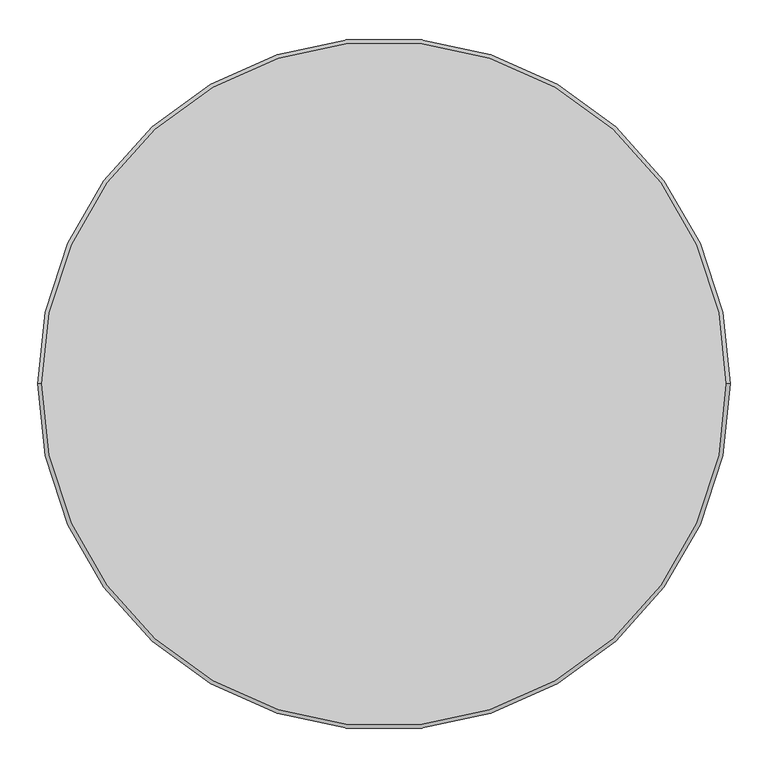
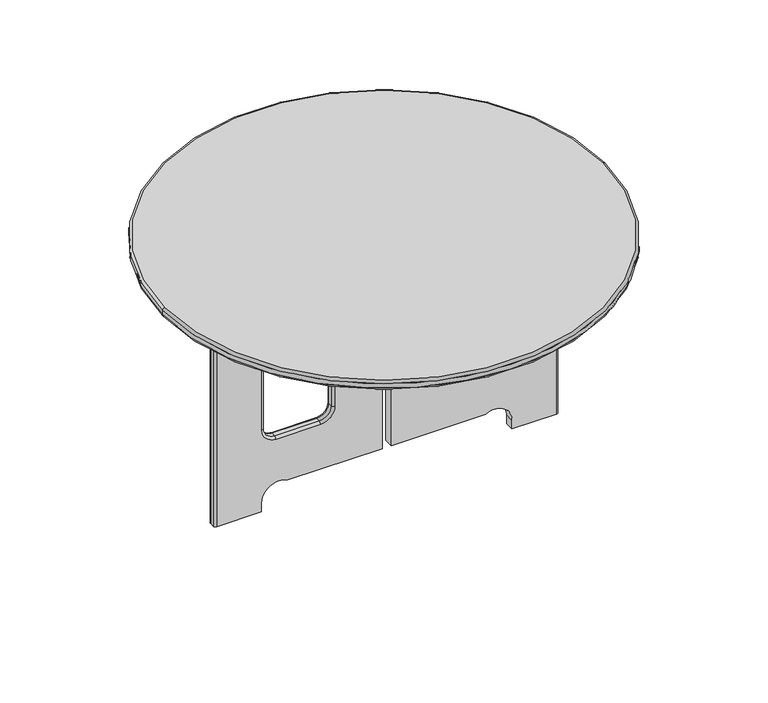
"""IFC4 building model written with IfcOpenShell, lengths in millimetres: furniture geometry, SSL-Childcraft_Outdoor-Table-Round : 2161358."""

from ifc_helpers import new_model, si_unit, point, frame, origin, origin_with_axes, place, context, project, spatial, polyline, circle_curve, ellipse_curve, trimmed, source, transform, mapped, element, save
from ifc_brep_helpers import plane_surface, cylinder_surface, revolved_surface, advanced_brep


def furniture_70d26ff8(model_context):
    return source(origin(), model_context, "Body", "AdvancedBrep", [
        advanced_brep(
        [(-350.8375, 9.525, 488.95), (-355.6, 4.7625, 488.95), (-355.6, -4.7625, 488.95), (-350.8375, -9.525, 488.95), (-285.7500064, -9.525, 488.95), (-285.7500064, 9.525, 488.95), (350.8375, -9.525, 488.95), (355.6, -4.7625, 488.95), (355.6, 4.7625, 488.95), (350.8375, 9.525, 488.95), (285.7499947, 9.525, 488.95), (285.7499947, -9.525, 488.95), (-350.8375, -9.525, 0.0), (-355.6, -4.7625, 0.0), (-355.6, 4.7625, 0.0), (-350.8375, 9.525, 0.0), (-258.7625, 9.525, 0.0), (-258.7625, -9.525, 0.0), (350.8375, 9.525, 0.0), (355.6, 4.7625, 0.0), (355.6, -4.7625, 0.0), (350.8375, -9.525, 0.0), (258.7625, -9.525, 0.0), (258.7625, 9.525, 0.0), (-266.6999968, 9.525, 469.899954), (266.7, 9.525, 469.899954), (258.7625, 9.525, 19.0499717), (204.219466, 9.525, 50.7999717), (9.525, 9.525, 50.7999717), (9.525, 9.525, 301.6249575), (-9.525, 9.525, 301.6249575), (-9.525, 9.525, 50.7999717), (-204.219466, 9.525, 50.7999717), (-258.7625, 9.525, 19.0499717), (-107.1562606, 9.525, 361.9499433), (-136.5250106, 9.525, 391.3186933), (-228.5873106, 9.525, 391.3186933), (-257.9687606, 9.525, 361.9372433), (-257.9687606, 9.525, 177.7999717), (-228.6000106, 9.525, 148.4312217), (-136.5250106, 9.525, 148.4312217), (-107.1562606, 9.525, 177.7999717), (257.9687606, 9.525, 361.9372433), (228.5873106, 9.525, 391.3186933), (136.5250106, 9.525, 391.3186933), (107.1562606, 9.525, 361.9499433), (107.1562606, 9.525, 177.7999717), (136.5250106, 9.525, 148.4312217), (228.6000106, 9.525, 148.4312217), (257.9687606, 9.525, 177.7999717), (-258.7625, -9.525, 19.0499717), (-204.219466, -9.525, 50.7999717), (-9.525, -9.525, 50.7999717), (-9.525, -9.525, 301.6249575), (9.525, -9.525, 301.6249575), (9.525, -9.525, 50.7999717), (204.219466, -9.525, 50.7999717), (258.7625, -9.525, 19.0499717), (266.7, -9.525, 469.899954), (-266.6999968, -9.525, 469.899954), (-136.5250106, -9.525, 391.3186933), (-107.1562606, -9.525, 361.9499433), (-107.1562606, -9.525, 177.7999717), (-136.5250106, -9.525, 148.4312217), (-228.6000106, -9.525, 148.4312217), (-257.9687606, -9.525, 177.7999717), (-257.9687606, -9.525, 361.9372433), (-228.5873106, -9.525, 391.3186933), (228.5873106, -9.525, 391.3186933), (257.9687606, -9.525, 361.9372433), (257.9687606, -9.525, 177.7999717), (228.6000106, -9.525, 148.4312217), (136.5250106, -9.525, 148.4312217), (107.1562606, -9.525, 177.7999717), (107.1562606, -9.525, 361.9499433), (136.5250106, -9.525, 391.3186933), (-111.9187606, 4.7625, 361.9499433), (-136.5250106, 4.7625, 386.5561933), (-111.9187606, -4.7625, 361.9499433), (-136.5250106, -4.7625, 386.5561933), (-111.9187606, 4.7625, 177.7999717), (-111.9187606, -4.7625, 177.7999717), (-136.5250106, 4.7625, 153.1937217), (-136.5250106, -4.7625, 153.1937217), (-228.6000106, 4.7625, 153.1937217), (-228.6000106, -4.7625, 153.1937217), (-253.2062606, 4.7625, 177.7999717), (-253.2062606, -4.7625, 177.7999717), (-253.2062606, 4.7625, 361.9372433), (-253.2062606, -4.7625, 361.9372433), (-228.5873106, 4.7625, 386.5561933), (-228.5873106, -4.7625, 386.5561933), (253.2062606, 4.7625, 361.9372433), (228.5873106, 4.7625, 386.5561933), (253.2062606, -4.7625, 361.9372433), (228.5873106, -4.7625, 386.5561933), (253.2062606, 4.7625, 177.7999717), (253.2062606, -4.7625, 177.7999717), (228.6000106, 4.7625, 153.1937217), (228.6000106, -4.7625, 153.1937217), (136.5250106, 4.7625, 153.1937217), (136.5250106, -4.7625, 153.1937217), (111.9187606, 4.7625, 177.7999717), (111.9187606, -4.7625, 177.7999717), (111.9187606, 4.7625, 361.9499433), (111.9187606, -4.7625, 361.9499433), (136.5250106, 4.7625, 386.5561933), (136.5250106, -4.7625, 386.5561933)],
        [
            (0, 1, circle_curve(frame((-350.8375, 4.7625, 488.95), z_axis=(0.0, 0.0, 1.0), x_axis=(1.0, 0.0, 0.0)), 4.7625)),
            (1, 2),
            (2, 3, circle_curve(frame((-350.8375, -4.7625, 488.95), z_axis=(0.0, 0.0, 1.0), x_axis=(1.0, 0.0, 0.0)), 4.7625)),
            (3, 4),
            (4, 5),
            (5, 0),
            (6, 7, circle_curve(frame((350.8375, -4.7625, 488.95), z_axis=(0.0, 0.0, 1.0), x_axis=(1.0, 0.0, 0.0)), 4.7625)),
            (7, 8),
            (8, 9, circle_curve(frame((350.8375, 4.7625, 488.95), z_axis=(0.0, 0.0, 1.0), x_axis=(1.0, 0.0, 0.0)), 4.7625)),
            (9, 10),
            (10, 11),
            (11, 6),
            (12, 13, circle_curve(frame((-350.8375, -4.7625, 0.0), z_axis=(0.0, 0.0, -1.0), x_axis=(1.0, 0.0, 0.0)), 4.7625)),
            (13, 14),
            (14, 15, circle_curve(frame((-350.8375, 4.7625, 0.0), z_axis=(0.0, 0.0, -1.0), x_axis=(1.0, 0.0, 0.0)), 4.7625)),
            (15, 16),
            (16, 17),
            (17, 12),
            (18, 19, circle_curve(frame((350.8375, 4.7625, 0.0), z_axis=(0.0, 0.0, -1.0), x_axis=(1.0, 0.0, 0.0)), 4.7625)),
            (19, 20),
            (20, 21, circle_curve(frame((350.8375, -4.7625, 0.0), z_axis=(0.0, 0.0, -1.0), x_axis=(1.0, 0.0, 0.0)), 4.7625)),
            (21, 22),
            (22, 23),
            (23, 18),
            (15, 0),
            (5, 24, circle_curve(frame((-266.6999968, 9.525, 488.9499636), z_axis=(0.0, -1.0, 0.0), x_axis=(1.0, 0.0, 0.0)), 19.0500096)),
            (24, 25),
            (25, 10, circle_curve(frame((266.7, 9.525, 488.9499487), z_axis=(0.0, -1.0, 0.0), x_axis=(1.0, 0.0, 0.0)), 19.0499947)),
            (9, 18),
            (23, 26),
            (26, 27, circle_curve(frame((222.25, 9.525, 19.0499717), z_axis=(0.0, -1.0, 0.0), x_axis=(1.0, 0.0, 0.0)), 36.5125)),
            (27, 28),
            (28, 29),
            (29, 30),
            (30, 31),
            (31, 32),
            (32, 33, circle_curve(frame((-222.25, 9.525, 19.0499717), z_axis=(0.0, -1.0, 0.0), x_axis=(1.0, 0.0, 0.0)), 36.5125)),
            (33, 16),
            (34, 35, circle_curve(frame((-136.5250106, 9.525, 361.9499433), z_axis=(0.0, -1.0, 0.0), x_axis=(0.0, 0.0, 1.0)), 29.36875)),
            (35, 36),
            (36, 37, circle_curve(frame((-228.5873106, 9.525, 361.9372433), z_axis=(0.0, -1.0, 0.0), x_axis=(-1.0, 0.0, 0.0)), 29.38145)),
            (37, 38),
            (38, 39, circle_curve(frame((-228.6000106, 9.525, 177.7999717), z_axis=(0.0, -1.0, 0.0), x_axis=(0.0, 0.0, -1.0)), 29.36875)),
            (39, 40),
            (40, 41, circle_curve(frame((-136.5250106, 9.525, 177.7999717), z_axis=(0.0, -1.0, 0.0), x_axis=(1.0, 0.0, 0.0)), 29.36875)),
            (41, 34),
            (42, 43, circle_curve(frame((228.5873106, 9.525, 361.9372433), z_axis=(0.0, -1.0, 0.0), x_axis=(0.0, 0.0, 1.0)), 29.38145)),
            (43, 44),
            (44, 45, circle_curve(frame((136.5250106, 9.525, 361.9499433), z_axis=(0.0, -1.0, 0.0), x_axis=(-1.0, 0.0, 0.0)), 29.36875)),
            (45, 46),
            (46, 47, circle_curve(frame((136.5250106, 9.525, 177.7999717), z_axis=(0.0, -1.0, 0.0), x_axis=(0.0, 0.0, -1.0)), 29.36875)),
            (47, 48),
            (48, 49, circle_curve(frame((228.6000106, 9.525, 177.7999717), z_axis=(0.0, -1.0, 0.0), x_axis=(1.0, 0.0, 0.0)), 29.36875)),
            (49, 42),
            (14, 1),
            (13, 2),
            (12, 3),
            (17, 50),
            (50, 51, circle_curve(frame((-222.25, -9.525, 19.0499717), z_axis=(0.0, 1.0, 0.0), x_axis=(1.0, 0.0, 0.0)), 36.5125)),
            (51, 52),
            (52, 53),
            (53, 54),
            (54, 55),
            (55, 56),
            (56, 57, circle_curve(frame((222.25, -9.525, 19.0499717), z_axis=(0.0, 1.0, 0.0), x_axis=(1.0, 0.0, 0.0)), 36.5125)),
            (57, 22),
            (21, 6),
            (11, 58, circle_curve(frame((266.7, -9.525, 488.9499487), z_axis=(0.0, 1.0, 0.0), x_axis=(1.0, 0.0, 0.0)), 19.0499947)),
            (58, 59),
            (59, 4, circle_curve(frame((-266.6999968, -9.525, 488.9499636), z_axis=(0.0, 1.0, 0.0), x_axis=(1.0, 0.0, 0.0)), 19.0500096)),
            (60, 61, circle_curve(frame((-136.5250106, -9.525, 361.9499433), z_axis=(0.0, 1.0, 0.0), x_axis=(0.0, 0.0, 1.0)), 29.36875)),
            (61, 62),
            (62, 63, circle_curve(frame((-136.5250106, -9.525, 177.7999717), z_axis=(0.0, 1.0, 0.0), x_axis=(1.0, 0.0, 0.0)), 29.36875)),
            (63, 64),
            (64, 65, circle_curve(frame((-228.6000106, -9.525, 177.7999717), z_axis=(0.0, 1.0, 0.0), x_axis=(0.0, 0.0, -1.0)), 29.36875)),
            (65, 66),
            (66, 67, circle_curve(frame((-228.5873106, -9.525, 361.9372433), z_axis=(0.0, 1.0, 0.0), x_axis=(-1.0, 0.0, 0.0)), 29.38145)),
            (67, 60),
            (68, 69, circle_curve(frame((228.5873106, -9.525, 361.9372433), z_axis=(0.0, 1.0, 0.0), x_axis=(0.0, 0.0, 1.0)), 29.38145)),
            (69, 70),
            (70, 71, circle_curve(frame((228.6000106, -9.525, 177.7999717), z_axis=(0.0, 1.0, 0.0), x_axis=(1.0, 0.0, 0.0)), 29.36875)),
            (71, 72),
            (72, 73, circle_curve(frame((136.5250106, -9.525, 177.7999717), z_axis=(0.0, 1.0, 0.0), x_axis=(0.0, 0.0, -1.0)), 29.36875)),
            (73, 74),
            (74, 75, circle_curve(frame((136.5250106, -9.525, 361.9499433), z_axis=(0.0, 1.0, 0.0), x_axis=(-1.0, 0.0, 0.0)), 29.36875)),
            (75, 68),
            (20, 7),
            (19, 8),
            (51, 32),
            (31, 52),
            (30, 53),
            (29, 54),
            (28, 55),
            (27, 56),
            (25, 58),
            (24, 59),
            (26, 57),
            (33, 50),
            (76, 77, circle_curve(frame((-136.5250106, 4.7625, 361.9499433), z_axis=(0.0, -1.0, 0.0), x_axis=(0.0, 0.0, 1.0)), 24.60625)),
            (77, 35, circle_curve(frame((-136.5250106, 4.7625, 391.3186933), z_axis=(1.0, 0.0, 0.0), x_axis=(0.0, 0.0, 1.0)), 4.7625)),
            (34, 76, circle_curve(frame((-107.1562606, 4.7625, 361.9499433), z_axis=(0.0, 0.0, 1.0), x_axis=(1.0, 0.0, 0.0)), 4.7625)),
            (76, 78),
            (78, 79, circle_curve(frame((-136.5250106, -4.7625, 361.9499433), z_axis=(0.0, -1.0, 0.0), x_axis=(0.0, 0.0, 1.0)), 24.60625)),
            (79, 77),
            (78, 61, circle_curve(frame((-107.1562606, -4.7625, 361.9499433), z_axis=(0.0, 0.0, 1.0), x_axis=(1.0, 0.0, 0.0)), 4.7625)),
            (60, 79, circle_curve(frame((-136.5250106, -4.7625, 391.3186933), z_axis=(1.0, 0.0, 0.0), x_axis=(0.0, 0.0, 1.0)), 4.7625)),
            (41, 80, circle_curve(frame((-107.1562606, 4.7625, 177.7999717), z_axis=(0.0, 0.0, 1.0), x_axis=(1.0, 0.0, 0.0)), 4.7625)),
            (80, 76),
            (80, 81),
            (81, 78),
            (81, 62, circle_curve(frame((-107.1562606, -4.7625, 177.7999717), z_axis=(0.0, 0.0, 1.0), x_axis=(1.0, 0.0, 0.0)), 4.7625)),
            (40, 82, circle_curve(frame((-136.5250106, 4.7625, 148.4312217), z_axis=(1.0, 0.0, 0.0), x_axis=(0.0, 0.0, -1.0)), 4.7625)),
            (82, 80, circle_curve(frame((-136.5250106, 4.7625, 177.7999717), z_axis=(0.0, -1.0, 0.0), x_axis=(1.0, 0.0, 0.0)), 24.60625)),
            (82, 83),
            (83, 81, circle_curve(frame((-136.5250106, -4.7625, 177.7999717), z_axis=(0.0, -1.0, 0.0), x_axis=(1.0, 0.0, 0.0)), 24.60625)),
            (83, 63, circle_curve(frame((-136.5250106, -4.7625, 148.4312217), z_axis=(1.0, 0.0, 0.0), x_axis=(0.0, 0.0, -1.0)), 4.7625)),
            (39, 84, circle_curve(frame((-228.6000106, 4.7625, 148.4312217), z_axis=(1.0, 0.0, 0.0), x_axis=(0.0, 0.0, -1.0)), 4.7625)),
            (84, 82),
            (84, 85),
            (85, 83),
            (85, 64, circle_curve(frame((-228.6000106, -4.7625, 148.4312217), z_axis=(1.0, 0.0, 0.0), x_axis=(0.0, 0.0, -1.0)), 4.7625)),
            (38, 86, circle_curve(frame((-257.9687606, 4.7625, 177.7999717), z_axis=(0.0, 0.0, -1.0), x_axis=(-1.0, 0.0, 0.0)), 4.7625)),
            (86, 84, circle_curve(frame((-228.6000106, 4.7625, 177.7999717), z_axis=(0.0, -1.0, 0.0), x_axis=(0.0, 0.0, -1.0)), 24.60625)),
            (86, 87),
            (87, 85, circle_curve(frame((-228.6000106, -4.7625, 177.7999717), z_axis=(0.0, -1.0, 0.0), x_axis=(0.0, 0.0, -1.0)), 24.60625)),
            (87, 65, circle_curve(frame((-257.9687606, -4.7625, 177.7999717), z_axis=(0.0, 0.0, -1.0), x_axis=(-1.0, 0.0, 0.0)), 4.7625)),
            (37, 88, circle_curve(frame((-257.9687606, 4.7625, 361.9372433), z_axis=(0.0, 0.0, -1.0), x_axis=(-1.0, 0.0, 0.0)), 4.7625)),
            (88, 86),
            (88, 89),
            (89, 87),
            (89, 66, circle_curve(frame((-257.9687606, -4.7625, 361.9372433), z_axis=(0.0, 0.0, -1.0), x_axis=(-1.0, 0.0, 0.0)), 4.7625)),
            (36, 90, circle_curve(frame((-228.5873106, 4.7625, 391.3186933), z_axis=(-1.0, 0.0, 0.0), x_axis=(0.0, 0.0, 1.0)), 4.7625)),
            (90, 88, circle_curve(frame((-228.5873106, 4.7625, 361.9372433), z_axis=(0.0, -1.0, 0.0), x_axis=(-1.0, 0.0, 0.0)), 24.61895)),
            (90, 91),
            (91, 89, circle_curve(frame((-228.5873106, -4.7625, 361.9372433), z_axis=(0.0, -1.0, 0.0), x_axis=(-1.0, 0.0, 0.0)), 24.61895)),
            (91, 67, circle_curve(frame((-228.5873106, -4.7625, 391.3186933), z_axis=(-1.0, 0.0, 0.0), x_axis=(0.0, 0.0, 1.0)), 4.7625)),
            (77, 90),
            (79, 91),
            (92, 93, circle_curve(frame((228.5873106, 4.7625, 361.9372433), z_axis=(0.0, -1.0, 0.0), x_axis=(0.0, 0.0, 1.0)), 24.61895)),
            (93, 43, circle_curve(frame((228.5873106, 4.7625, 391.3186933), z_axis=(1.0, 0.0, 0.0), x_axis=(0.0, 0.0, 1.0)), 4.7625)),
            (42, 92, circle_curve(frame((257.9687606, 4.7625, 361.9372433), z_axis=(0.0, 0.0, 1.0), x_axis=(1.0, 0.0, 0.0)), 4.7625)),
            (92, 94),
            (94, 95, circle_curve(frame((228.5873106, -4.7625, 361.9372433), z_axis=(0.0, -1.0, 0.0), x_axis=(0.0, 0.0, 1.0)), 24.61895)),
            (95, 93),
            (94, 69, circle_curve(frame((257.9687606, -4.7625, 361.9372433), z_axis=(0.0, 0.0, 1.0), x_axis=(1.0, 0.0, 0.0)), 4.7625)),
            (68, 95, circle_curve(frame((228.5873106, -4.7625, 391.3186933), z_axis=(1.0, 0.0, 0.0), x_axis=(0.0, 0.0, 1.0)), 4.7625)),
            (49, 96, circle_curve(frame((257.9687606, 4.7625, 177.7999717), z_axis=(0.0, 0.0, 1.0), x_axis=(1.0, 0.0, 0.0)), 4.7625)),
            (96, 92),
            (96, 97),
            (97, 94),
            (97, 70, circle_curve(frame((257.9687606, -4.7625, 177.7999717), z_axis=(0.0, 0.0, 1.0), x_axis=(1.0, 0.0, 0.0)), 4.7625)),
            (48, 98, circle_curve(frame((228.6000106, 4.7625, 148.4312217), z_axis=(1.0, 0.0, 0.0), x_axis=(0.0, 0.0, -1.0)), 4.7625)),
            (98, 96, circle_curve(frame((228.6000106, 4.7625, 177.7999717), z_axis=(0.0, -1.0, 0.0), x_axis=(1.0, 0.0, 0.0)), 24.60625)),
            (98, 99),
            (99, 97, circle_curve(frame((228.6000106, -4.7625, 177.7999717), z_axis=(0.0, -1.0, 0.0), x_axis=(1.0, 0.0, 0.0)), 24.60625)),
            (99, 71, circle_curve(frame((228.6000106, -4.7625, 148.4312217), z_axis=(1.0, 0.0, 0.0), x_axis=(0.0, 0.0, -1.0)), 4.7625)),
            (47, 100, circle_curve(frame((136.5250106, 4.7625, 148.4312217), z_axis=(1.0, 0.0, 0.0), x_axis=(0.0, 0.0, -1.0)), 4.7625)),
            (100, 98),
            (100, 101),
            (101, 99),
            (101, 72, circle_curve(frame((136.5250106, -4.7625, 148.4312217), z_axis=(1.0, 0.0, 0.0), x_axis=(0.0, 0.0, -1.0)), 4.7625)),
            (46, 102, circle_curve(frame((107.1562606, 4.7625, 177.7999717), z_axis=(0.0, 0.0, -1.0), x_axis=(-1.0, 0.0, 0.0)), 4.7625)),
            (102, 100, circle_curve(frame((136.5250106, 4.7625, 177.7999717), z_axis=(0.0, -1.0, 0.0), x_axis=(0.0, 0.0, -1.0)), 24.60625)),
            (102, 103),
            (103, 101, circle_curve(frame((136.5250106, -4.7625, 177.7999717), z_axis=(0.0, -1.0, 0.0), x_axis=(0.0, 0.0, -1.0)), 24.60625)),
            (103, 73, circle_curve(frame((107.1562606, -4.7625, 177.7999717), z_axis=(0.0, 0.0, -1.0), x_axis=(-1.0, 0.0, 0.0)), 4.7625)),
            (45, 104, circle_curve(frame((107.1562606, 4.7625, 361.9499433), z_axis=(0.0, 0.0, -1.0), x_axis=(-1.0, 0.0, 0.0)), 4.7625)),
            (104, 102),
            (104, 105),
            (105, 103),
            (105, 74, circle_curve(frame((107.1562606, -4.7625, 361.9499433), z_axis=(0.0, 0.0, -1.0), x_axis=(-1.0, 0.0, 0.0)), 4.7625)),
            (44, 106, circle_curve(frame((136.5250106, 4.7625, 391.3186933), z_axis=(-1.0, 0.0, 0.0), x_axis=(0.0, 0.0, 1.0)), 4.7625)),
            (106, 104, circle_curve(frame((136.5250106, 4.7625, 361.9499433), z_axis=(0.0, -1.0, 0.0), x_axis=(-1.0, 0.0, 0.0)), 24.60625)),
            (106, 107),
            (107, 105, circle_curve(frame((136.5250106, -4.7625, 361.9499433), z_axis=(0.0, -1.0, 0.0), x_axis=(-1.0, 0.0, 0.0)), 24.60625)),
            (107, 75, circle_curve(frame((136.5250106, -4.7625, 391.3186933), z_axis=(-1.0, 0.0, 0.0), x_axis=(0.0, 0.0, 1.0)), 4.7625)),
            (93, 106),
            (95, 107),
        ],
        [
            plane_surface(frame((-350.8375, 9.525, 488.95), z_axis=(0.0, 0.0, 1.0), x_axis=(-1.0, 0.0, 0.0))),
            plane_surface(frame((-350.8375, 9.525, 0.0), z_axis=(0.0, 0.0, -1.0), x_axis=(1.0, 0.0, 0.0))),
            plane_surface(frame((-350.04375, 9.525, 488.95), z_axis=(0.0, 1.0, 0.0), x_axis=(0.0, 0.0, -1.0))),
            cylinder_surface(frame((-350.8375, 4.7625, 0.0), z_axis=(0.0, 0.0, 1.0), x_axis=(1.0, 0.0, 0.0)), 4.7625),
            plane_surface(frame((-355.6, 4.7625, 488.95), z_axis=(-1.0, 0.0, 0.0), x_axis=(0.0, 0.0, -1.0))),
            cylinder_surface(frame((-350.8375, -4.7625, 0.0), z_axis=(0.0, 0.0, 1.0), x_axis=(1.0, 0.0, 0.0)), 4.7625),
            plane_surface(frame((-350.8375, -9.525, 488.95), z_axis=(0.0, -1.0, 0.0), x_axis=(0.0, 0.0, -1.0))),
            cylinder_surface(frame((350.8375, -4.7625, 0.0), z_axis=(0.0, 0.0, 1.0), x_axis=(1.0, 0.0, 0.0)), 4.7625),
            plane_surface(frame((355.6, -4.7625, 488.95), z_axis=(1.0, 0.0, 0.0), x_axis=(0.0, 0.0, -1.0))),
            cylinder_surface(frame((350.8375, 4.7625, 0.0), z_axis=(0.0, 0.0, 1.0), x_axis=(1.0, 0.0, 0.0)), 4.7625),
            plane_surface(frame((-204.219466, -9.525, 50.7999717), z_axis=(0.0, 0.0, -1.0), x_axis=(0.0, 1.0, 0.0))),
            plane_surface(frame((-9.525, -9.525, 50.7999717), z_axis=(1.0, 0.0, 0.0), x_axis=(0.0, 1.0, 0.0))),
            plane_surface(frame((-9.525, -9.525, 301.6249575), z_axis=(0.0, 0.0, -1.0), x_axis=(0.0, 1.0, 0.0))),
            plane_surface(frame((9.525, -9.525, 301.6249575), z_axis=(-1.0, 0.0, 0.0), x_axis=(0.0, 1.0, 0.0))),
            plane_surface(frame((9.525, -9.525, 50.7999717), z_axis=(0.0, 0.0, -1.0), x_axis=(0.0, 1.0, 0.0))),
            revolved_surface(polyline([(285.7499947, 9.525, 488.9499487), (285.7499947, -9.525, 488.9499487)]), (266.7, 9.525, 488.9499487), (0.0, 1.0, 0.0)),
            plane_surface(frame((266.7, -9.525, 469.899954), z_axis=(0.0, 0.0, 1.0), x_axis=(0.0, 1.0, 0.0))),
            revolved_surface(polyline([(-247.6499872, 9.525, 488.9499636), (-247.6499872, -9.525, 488.9499636)]), (-266.6999968, 9.525, 488.9499636), (0.0, 1.0, 0.0)),
            revolved_surface(polyline([(258.7625, 9.525, 19.0499717), (258.7625, -9.525, 19.0499717)]), (222.25, 9.525, 19.0499717), (0.0, 1.0, 0.0)),
            plane_surface(frame((258.7625, -9.525, 19.0499717), z_axis=(-1.0, 0.0, 0.0), x_axis=(0.0, 1.0, 0.0))),
            plane_surface(frame((-258.7625, -9.525, 0.0), z_axis=(1.0, 0.0, 0.0), x_axis=(0.0, 1.0, 0.0))),
            revolved_surface(polyline([(-185.7375, 9.525, 19.0499717), (-185.7375, -9.525, 19.0499717)]), (-222.25, 9.525, 19.0499717), (0.0, 1.0, 0.0)),
            revolved_surface(trimmed(ellipse_curve(frame((-136.5250106, 4.7625, 391.3186933), z_axis=(-1.0, 0.0, 0.0), x_axis=(0.0, 0.0, 1.0)), 4.7625, 4.7625), [point((-136.5250106, 9.525, 391.3186933))], [point((-136.5250106, 4.7625, 386.5561933))], True, "CARTESIAN"), (-136.5250106, 0.0, 361.9499433), (0.0, 1.0, 0.0)),
            revolved_surface(polyline([(-136.5250106, 4.7625, 386.55619329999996), (-136.5250106, -4.7625, 386.55619329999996)]), (-136.5250106, 0.0, 361.9499433), (0.0, 1.0, 0.0)),
            revolved_surface(trimmed(ellipse_curve(frame((-136.5250106, -4.7625, 391.3186933), z_axis=(-1.0, 0.0, 0.0), x_axis=(0.0, 0.0, 1.0)), 4.7625, 4.7625), [point((-136.5250106, -4.7625, 386.5561933))], [point((-136.5250106, -9.525, 391.3186933))], True, "CARTESIAN"), (-136.5250106, 0.0, 361.9499433), (0.0, 1.0, 0.0)),
            cylinder_surface(frame((-107.1562606, 4.7625, 361.9499433), z_axis=(0.0, 0.0, 1.0), x_axis=(1.0, 0.0, 0.0)), 4.7625),
            plane_surface(frame((-111.9187606, 4.7625, 361.9499433), z_axis=(-1.0, 0.0, 0.0), x_axis=(0.0, 0.0, -1.0))),
            cylinder_surface(frame((-107.1562606, -4.7625, 361.9499433), z_axis=(0.0, 0.0, 1.0), x_axis=(1.0, 0.0, 0.0)), 4.7625),
            revolved_surface(trimmed(ellipse_curve(frame((-107.1562606, 4.7625, 177.7999717), z_axis=(0.0, 0.0, 1.0), x_axis=(1.0, 0.0, 0.0)), 4.7625, 4.7625), [point((-107.1562606, 9.525, 177.7999717))], [point((-111.9187606, 4.7625, 177.7999717))], True, "CARTESIAN"), (-136.5250106, 0.0, 177.7999717), (0.0, 1.0, 0.0)),
            revolved_surface(polyline([(-111.9187606, 4.7625, 177.7999717), (-111.9187606, -4.7625, 177.7999717)]), (-136.5250106, 0.0, 177.7999717), (0.0, 1.0, 0.0)),
            revolved_surface(trimmed(ellipse_curve(frame((-107.1562606, -4.7625, 177.7999717), z_axis=(0.0, 0.0, 1.0), x_axis=(1.0, 0.0, 0.0)), 4.7625, 4.7625), [point((-111.9187606, -4.7625, 177.7999717))], [point((-107.1562606, -9.525, 177.7999717))], True, "CARTESIAN"), (-136.5250106, 0.0, 177.7999717), (0.0, 1.0, 0.0)),
            cylinder_surface(frame((-136.5250106, 4.7625, 148.4312217), z_axis=(1.0, 0.0, 0.0), x_axis=(0.0, 0.0, -1.0)), 4.7625),
            plane_surface(frame((-136.5250106, 4.7625, 153.1937217), z_axis=(0.0, 0.0, 1.0), x_axis=(-1.0, 0.0, 0.0))),
            cylinder_surface(frame((-136.5250106, -4.7625, 148.4312217), z_axis=(1.0, 0.0, 0.0), x_axis=(0.0, 0.0, -1.0)), 4.7625),
            revolved_surface(trimmed(ellipse_curve(frame((-228.6000106, 4.7625, 148.4312217), z_axis=(1.0, 0.0, 0.0), x_axis=(0.0, 0.0, -1.0)), 4.7625, 4.7625), [point((-228.6000106, 9.525, 148.4312217))], [point((-228.6000106, 4.7625, 153.1937217))], True, "CARTESIAN"), (-228.6000106, 0.0, 177.7999717), (0.0, 1.0, 0.0)),
            revolved_surface(polyline([(-228.6000106, 4.7625, 153.1937217), (-228.6000106, -4.7625, 153.1937217)]), (-228.6000106, 0.0, 177.7999717), (0.0, 1.0, 0.0)),
            revolved_surface(trimmed(ellipse_curve(frame((-228.6000106, -4.7625, 148.4312217), z_axis=(1.0, 0.0, 0.0), x_axis=(0.0, 0.0, -1.0)), 4.7625, 4.7625), [point((-228.6000106, -4.7625, 153.1937217))], [point((-228.6000106, -9.525, 148.4312217))], True, "CARTESIAN"), (-228.6000106, 0.0, 177.7999717), (0.0, 1.0, 0.0)),
            cylinder_surface(frame((-257.9687606, 4.7625, 177.7999717), z_axis=(0.0, 0.0, -1.0), x_axis=(-1.0, 0.0, 0.0)), 4.7625),
            plane_surface(frame((-253.2062606, 4.7625, 177.7999717), z_axis=(1.0, 0.0, 0.0), x_axis=(0.0, 0.0, 1.0))),
            cylinder_surface(frame((-257.9687606, -4.7625, 177.7999717), z_axis=(0.0, 0.0, -1.0), x_axis=(-1.0, 0.0, 0.0)), 4.7625),
            revolved_surface(trimmed(ellipse_curve(frame((-257.9687606, 4.7625, 361.9372433), z_axis=(0.0, 0.0, -1.0), x_axis=(-1.0, 0.0, 0.0)), 4.7625, 4.7625), [point((-257.9687606, 9.525, 361.9372433))], [point((-253.2062606, 4.7625, 361.9372433))], True, "CARTESIAN"), (-228.5873106, 0.0, 361.9372433), (0.0, 1.0, 0.0)),
            revolved_surface(polyline([(-253.2062606, 4.7625, 361.9372433), (-253.2062606, -4.7625, 361.9372433)]), (-228.5873106, 0.0, 361.9372433), (0.0, 1.0, 0.0)),
            revolved_surface(trimmed(ellipse_curve(frame((-257.9687606, -4.7625, 361.9372433), z_axis=(0.0, 0.0, -1.0), x_axis=(-1.0, 0.0, 0.0)), 4.7625, 4.7625), [point((-253.2062606, -4.7625, 361.9372433))], [point((-257.9687606, -9.525, 361.9372433))], True, "CARTESIAN"), (-228.5873106, 0.0, 361.9372433), (0.0, 1.0, 0.0)),
            cylinder_surface(frame((-228.5873106, 4.7625, 391.3186933), z_axis=(-1.0, 0.0, 0.0), x_axis=(0.0, 0.0, 1.0)), 4.7625),
            plane_surface(frame((-228.5873106, 4.7625, 386.5561933), z_axis=(0.0, 0.0, -1.0), x_axis=(1.0, 0.0, 0.0))),
            cylinder_surface(frame((-228.5873106, -4.7625, 391.3186933), z_axis=(-1.0, 0.0, 0.0), x_axis=(0.0, 0.0, 1.0)), 4.7625),
            revolved_surface(trimmed(ellipse_curve(frame((228.5873106, 4.7625, 391.3186933), z_axis=(-1.0, 0.0, 0.0), x_axis=(0.0, 0.0, 1.0)), 4.7625, 4.7625), [point((228.5873106, 9.525, 391.3186933))], [point((228.5873106, 4.7625, 386.5561933))], True, "CARTESIAN"), (228.5873106, 0.0, 361.9372433), (0.0, 1.0, 0.0)),
            revolved_surface(polyline([(228.5873106, 4.7625, 386.55619329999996), (228.5873106, -4.7625, 386.55619329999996)]), (228.5873106, 0.0, 361.9372433), (0.0, 1.0, 0.0)),
            revolved_surface(trimmed(ellipse_curve(frame((228.5873106, -4.7625, 391.3186933), z_axis=(-1.0, 0.0, 0.0), x_axis=(0.0, 0.0, 1.0)), 4.7625, 4.7625), [point((228.5873106, -4.7625, 386.5561933))], [point((228.5873106, -9.525, 391.3186933))], True, "CARTESIAN"), (228.5873106, 0.0, 361.9372433), (0.0, 1.0, 0.0)),
            cylinder_surface(frame((257.9687606, 4.7625, 361.9372433), z_axis=(0.0, 0.0, 1.0), x_axis=(1.0, 0.0, 0.0)), 4.7625),
            plane_surface(frame((253.2062606, 4.7625, 361.9372433), z_axis=(-1.0, 0.0, 0.0), x_axis=(0.0, 0.0, -1.0))),
            cylinder_surface(frame((257.9687606, -4.7625, 361.9372433), z_axis=(0.0, 0.0, 1.0), x_axis=(1.0, 0.0, 0.0)), 4.7625),
            revolved_surface(trimmed(ellipse_curve(frame((257.9687606, 4.7625, 177.7999717), z_axis=(0.0, 0.0, 1.0), x_axis=(1.0, 0.0, 0.0)), 4.7625, 4.7625), [point((257.9687606, 9.525, 177.7999717))], [point((253.2062606, 4.7625, 177.7999717))], True, "CARTESIAN"), (228.6000106, 0.0, 177.7999717), (0.0, 1.0, 0.0)),
            revolved_surface(polyline([(253.20626059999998, 4.7625, 177.7999717), (253.20626059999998, -4.7625, 177.7999717)]), (228.6000106, 0.0, 177.7999717), (0.0, 1.0, 0.0)),
            revolved_surface(trimmed(ellipse_curve(frame((257.9687606, -4.7625, 177.7999717), z_axis=(0.0, 0.0, 1.0), x_axis=(1.0, 0.0, 0.0)), 4.7625, 4.7625), [point((253.2062606, -4.7625, 177.7999717))], [point((257.9687606, -9.525, 177.7999717))], True, "CARTESIAN"), (228.6000106, 0.0, 177.7999717), (0.0, 1.0, 0.0)),
            cylinder_surface(frame((228.6000106, 4.7625, 148.4312217), z_axis=(1.0, 0.0, 0.0), x_axis=(0.0, 0.0, -1.0)), 4.7625),
            plane_surface(frame((228.6000106, 4.7625, 153.1937217), z_axis=(0.0, 0.0, 1.0), x_axis=(-1.0, 0.0, 0.0))),
            cylinder_surface(frame((228.6000106, -4.7625, 148.4312217), z_axis=(1.0, 0.0, 0.0), x_axis=(0.0, 0.0, -1.0)), 4.7625),
            revolved_surface(trimmed(ellipse_curve(frame((136.5250106, 4.7625, 148.4312217), z_axis=(1.0, 0.0, 0.0), x_axis=(0.0, 0.0, -1.0)), 4.7625, 4.7625), [point((136.5250106, 9.525, 148.4312217))], [point((136.5250106, 4.7625, 153.1937217))], True, "CARTESIAN"), (136.5250106, 0.0, 177.7999717), (0.0, 1.0, 0.0)),
            revolved_surface(polyline([(136.5250106, 4.7625, 153.1937217), (136.5250106, -4.7625, 153.1937217)]), (136.5250106, 0.0, 177.7999717), (0.0, 1.0, 0.0)),
            revolved_surface(trimmed(ellipse_curve(frame((136.5250106, -4.7625, 148.4312217), z_axis=(1.0, 0.0, 0.0), x_axis=(0.0, 0.0, -1.0)), 4.7625, 4.7625), [point((136.5250106, -4.7625, 153.1937217))], [point((136.5250106, -9.525, 148.4312217))], True, "CARTESIAN"), (136.5250106, 0.0, 177.7999717), (0.0, 1.0, 0.0)),
            cylinder_surface(frame((107.1562606, 4.7625, 177.7999717), z_axis=(0.0, 0.0, -1.0), x_axis=(-1.0, 0.0, 0.0)), 4.7625),
            plane_surface(frame((111.9187606, 4.7625, 177.7999717), z_axis=(1.0, 0.0, 0.0), x_axis=(0.0, 0.0, 1.0))),
            cylinder_surface(frame((107.1562606, -4.7625, 177.7999717), z_axis=(0.0, 0.0, -1.0), x_axis=(-1.0, 0.0, 0.0)), 4.7625),
            revolved_surface(trimmed(ellipse_curve(frame((107.1562606, 4.7625, 361.9499433), z_axis=(0.0, 0.0, -1.0), x_axis=(-1.0, 0.0, 0.0)), 4.7625, 4.7625), [point((107.1562606, 9.525, 361.9499433))], [point((111.9187606, 4.7625, 361.9499433))], True, "CARTESIAN"), (136.5250106, 0.0, 361.9499433), (0.0, 1.0, 0.0)),
            revolved_surface(polyline([(111.9187606, 4.7625, 361.9499433), (111.9187606, -4.7625, 361.9499433)]), (136.5250106, 0.0, 361.9499433), (0.0, 1.0, 0.0)),
            revolved_surface(trimmed(ellipse_curve(frame((107.1562606, -4.7625, 361.9499433), z_axis=(0.0, 0.0, -1.0), x_axis=(-1.0, 0.0, 0.0)), 4.7625, 4.7625), [point((111.9187606, -4.7625, 361.9499433))], [point((107.1562606, -9.525, 361.9499433))], True, "CARTESIAN"), (136.5250106, 0.0, 361.9499433), (0.0, 1.0, 0.0)),
            cylinder_surface(frame((136.5250106, 4.7625, 391.3186933), z_axis=(-1.0, 0.0, 0.0), x_axis=(0.0, 0.0, 1.0)), 4.7625),
            plane_surface(frame((136.5250106, 4.7625, 386.5561933), z_axis=(0.0, 0.0, -1.0), x_axis=(1.0, 0.0, 0.0))),
            cylinder_surface(frame((136.5250106, -4.7625, 391.3186933), z_axis=(-1.0, 0.0, 0.0), x_axis=(0.0, 0.0, 1.0)), 4.7625),
        ],
        [
            (0, [[1, 2, 3, 4, 5, 6]]),
            (0, [[7, 8, 9, 10, 11, 12]]),
            (1, [[13, 14, 15, 16, 17, 18]]),
            (1, [[19, 20, 21, 22, 23, 24]]),
            (2, [[25, -6, 26, 27, 28, -10, 29, -24, 30, 31, 32, 33, 34, 35, 36, 37, 38, -16], [39, 40, 41, 42, 43, 44, 45, 46], [47, 48, 49, 50, 51, 52, 53, 54]]),
            (3, [[-1, -25, -15, 55]]),
            (4, [[-2, -55, -14, 56]]),
            (5, [[-3, -56, -13, 57]]),
            (6, [[-57, -18, 58, 59, 60, 61, 62, 63, 64, 65, 66, -22, 67, -12, 68, 69, 70, -4], [71, 72, 73, 74, 75, 76, 77, 78], [79, 80, 81, 82, 83, 84, 85, 86]]),
            (7, [[-7, -67, -21, 87]]),
            (8, [[-8, -87, -20, 88]]),
            (9, [[-9, -88, -19, -29]]),
            (10, [[-60, 89, -36, 90]]),
            (11, [[-61, -90, -35, 91]]),
            (12, [[-62, -91, -34, 92]]),
            (13, [[-63, -92, -33, 93]]),
            (14, [[-64, -93, -32, 94]]),
            (15, [[-68, -11, -28, 95]]),
            (16, [[-69, -95, -27, 96]]),
            (17, [[-70, -96, -26, -5]]),
            (18, [[-65, -94, -31, 97]]),
            (19, [[-66, -97, -30, -23]]),
            (20, [[-58, -17, -38, 98]]),
            (21, [[-59, -98, -37, -89]]),
            (22, [[99, 100, -39, 101]]),
            (23, [[-99, 102, 103, 104]]),
            (24, [[-103, 105, -71, 106]]),
            (25, [[-101, -46, 107, 108]]),
            (26, [[-102, -108, 109, 110]]),
            (27, [[-105, -110, 111, -72]]),
            (28, [[-107, -45, 112, 113]]),
            (29, [[-109, -113, 114, 115]]),
            (30, [[-111, -115, 116, -73]]),
            (31, [[-112, -44, 117, 118]]),
            (32, [[-114, -118, 119, 120]]),
            (33, [[-116, -120, 121, -74]]),
            (34, [[-117, -43, 122, 123]]),
            (35, [[-119, -123, 124, 125]]),
            (36, [[-121, -125, 126, -75]]),
            (37, [[-122, -42, 127, 128]]),
            (38, [[-124, -128, 129, 130]]),
            (39, [[-126, -130, 131, -76]]),
            (40, [[-127, -41, 132, 133]]),
            (41, [[-129, -133, 134, 135]]),
            (42, [[-131, -135, 136, -77]]),
            (43, [[-100, 137, -132, -40]]),
            (44, [[-104, 138, -134, -137]]),
            (45, [[-106, -78, -136, -138]]),
            (46, [[139, 140, -47, 141]]),
            (47, [[-139, 142, 143, 144]]),
            (48, [[-143, 145, -79, 146]]),
            (49, [[-141, -54, 147, 148]]),
            (50, [[-142, -148, 149, 150]]),
            (51, [[-145, -150, 151, -80]]),
            (52, [[-147, -53, 152, 153]]),
            (53, [[-149, -153, 154, 155]]),
            (54, [[-151, -155, 156, -81]]),
            (55, [[-152, -52, 157, 158]]),
            (56, [[-154, -158, 159, 160]]),
            (57, [[-156, -160, 161, -82]]),
            (58, [[-157, -51, 162, 163]]),
            (59, [[-159, -163, 164, 165]]),
            (60, [[-161, -165, 166, -83]]),
            (61, [[-162, -50, 167, 168]]),
            (62, [[-164, -168, 169, 170]]),
            (63, [[-166, -170, 171, -84]]),
            (64, [[-167, -49, 172, 173]]),
            (65, [[-169, -173, 174, 175]]),
            (66, [[-171, -175, 176, -85]]),
            (67, [[-140, 177, -172, -48]]),
            (68, [[-144, 178, -174, -177]]),
            (69, [[-146, -86, -176, -178]]),
        ],
    ),
        advanced_brep(
        [(457.2, 0.0, 493.7252), (-457.2, 0.0, 493.7252), (-452.4248, 0.0, 488.95), (452.4248, 0.0, 488.95), (457.2, 0.0, 503.2553465), (-457.2, 0.0, 503.2553465), (452.4553465, 0.0, 508.0), (-452.4553465, 0.0, 508.0)],
        [
            (0, 1, circle_curve(frame((0.0, 0.0, 493.7252), z_axis=(0.0, 0.0, -1.0), x_axis=(-1.0, 0.0, 0.0)), 457.2)),
            (1, 2, circle_curve(frame((-452.4248, 0.0, 493.7252), z_axis=(0.0, -1.0, 0.0), x_axis=(1.0, 0.0, 0.0)), 4.7752)),
            (2, 3, circle_curve(frame((0.0, 0.0, 488.95), z_axis=(0.0, 0.0, 1.0), x_axis=(-1.0, 0.0, 0.0)), 452.4248)),
            (3, 0, circle_curve(frame((452.4248, 0.0, 493.7252), z_axis=(0.0, -1.0, 0.0), x_axis=(-1.0, 0.0, 0.0)), 4.7752)),
            (0, 4),
            (4, 5, circle_curve(frame((0.0, 0.0, 503.2553465), z_axis=(0.0, 0.0, -1.0), x_axis=(-1.0, 0.0, 0.0)), 457.2)),
            (5, 1),
            (4, 6, circle_curve(frame((452.4553465, 0.0, 503.2553465), z_axis=(0.0, -1.0, 0.0), x_axis=(-1.0, 0.0, 0.0)), 4.7446535)),
            (6, 7, circle_curve(frame((0.0, 0.0, 508.0), z_axis=(0.0, 0.0, -1.0), x_axis=(-1.0, 0.0, 0.0)), 452.4553465)),
            (7, 5, circle_curve(frame((-452.4553465, 0.0, 503.2553465), z_axis=(0.0, -1.0, 0.0), x_axis=(1.0, 0.0, 0.0)), 4.7446535)),
            (2, 3, circle_curve(frame((0.0, 0.0, 488.95), z_axis=(0.0, 0.0, -1.0), x_axis=(1.0, 0.0, 0.0)), 452.4248)),
            (1, 0, circle_curve(frame((0.0, 0.0, 493.7252), z_axis=(0.0, 0.0, -1.0), x_axis=(1.0, 0.0, 0.0)), 457.2)),
            (5, 4, circle_curve(frame((0.0, 0.0, 503.2553465), z_axis=(0.0, 0.0, -1.0), x_axis=(1.0, 0.0, 0.0)), 457.2)),
            (7, 6, circle_curve(frame((0.0, 0.0, 508.0), z_axis=(0.0, 0.0, -1.0), x_axis=(1.0, 0.0, 0.0)), 452.4553465)),
        ],
        [
            revolved_surface(trimmed(ellipse_curve(frame((-452.4248, 0.0, 493.7252), z_axis=(0.0, 1.0, 0.0), x_axis=(1.0, 0.0, 0.0)), 4.7752, 4.7752), [point((-452.4248, 0.0, 488.95))], [point((-457.2, 0.0, 493.7252))], True, "CARTESIAN"), (0.0, 0.0, 0.0), (0.0, 0.0, 1.0)),
            cylinder_surface(frame((0.0, 0.0, 0.0), z_axis=(0.0, 0.0, 1.0), x_axis=(-1.0, 0.0, 0.0)), 457.2),
            revolved_surface(trimmed(ellipse_curve(frame((-452.4553465, 0.0, 503.2553465), z_axis=(0.0, 1.0, 0.0), x_axis=(1.0, 0.0, 0.0)), 4.7446535, 4.7446535), [point((-457.2, 0.0, 503.2553465))], [point((-452.4553465, 0.0, 508.0))], True, "CARTESIAN"), (0.0, 0.0, 0.0), (0.0, 0.0, 1.0)),
            plane_surface(frame((0.0, 0.0, 488.95), z_axis=(0.0, 0.0, -1.0), x_axis=(1.0, 0.0, 0.0))),
            revolved_surface(trimmed(ellipse_curve(frame((452.4248, 0.0, 493.7252), z_axis=(0.0, -1.0, 0.0), x_axis=(-1.0, 0.0, 0.0)), 4.7752, 4.7752), [point((452.4248, 0.0, 488.95))], [point((457.2, 0.0, 493.7252))], True, "CARTESIAN"), (0.0, 0.0, 0.0), (0.0, 0.0, 1.0)),
            cylinder_surface(origin_with_axes(), 457.2),
            revolved_surface(trimmed(ellipse_curve(frame((452.4553465, 0.0, 503.2553465), z_axis=(0.0, -1.0, 0.0), x_axis=(-1.0, 0.0, 0.0)), 4.7446535, 4.7446535), [point((457.2, 0.0, 503.2553465))], [point((452.4553465, 0.0, 508.0))], True, "CARTESIAN"), (0.0, 0.0, 0.0), (0.0, 0.0, 1.0)),
            plane_surface(frame((0.0, 0.0, 508.0), z_axis=(0.0, 0.0, 1.0), x_axis=(1.0, 0.0, 0.0))),
        ],
        [
            (0, [[1, 2, 3, 4]]),
            (1, [[-1, 5, 6, 7]]),
            (2, [[-6, 8, 9, 10]]),
            (3, [[-3, 11]]),
            (4, [[-2, 12, -4, -11]]),
            (5, [[-7, 13, -5, -12]]),
            (6, [[-10, 14, -8, -13]]),
            (7, [[-9, -14]]),
        ],
    ),
    ])


if __name__ == "__main__":
    model = new_model("IFC4")
    model_context = context("Model", 3, world=origin())
    ifc_project = project(units=[si_unit("LENGTHUNIT", "METRE", prefix="MILLI")], contexts=[model_context])
    site = spatial("IfcSite", under=ifc_project)
    building = spatial("IfcBuilding", under=site)
    placement = place(None, origin())
    furniture_shape = furniture_70d26ff8(model_context)
    element("IfcFurniture", 1, ObjectType="SSL-Childcraft_Outdoor-Table-Round : 2161358", at=placement, inside=building, context=model_context, shape_type="MappedRepresentation", body=[
        mapped(furniture_shape, transform((0.0, 0.0, 0.0), x_axis=(1.0, 0.0, 0.0), y_axis=(0.0, 1.0, 0.0), z_axis=(0.0, 0.0, 1.0))),
    ])
    save(model, "model.ifc")
